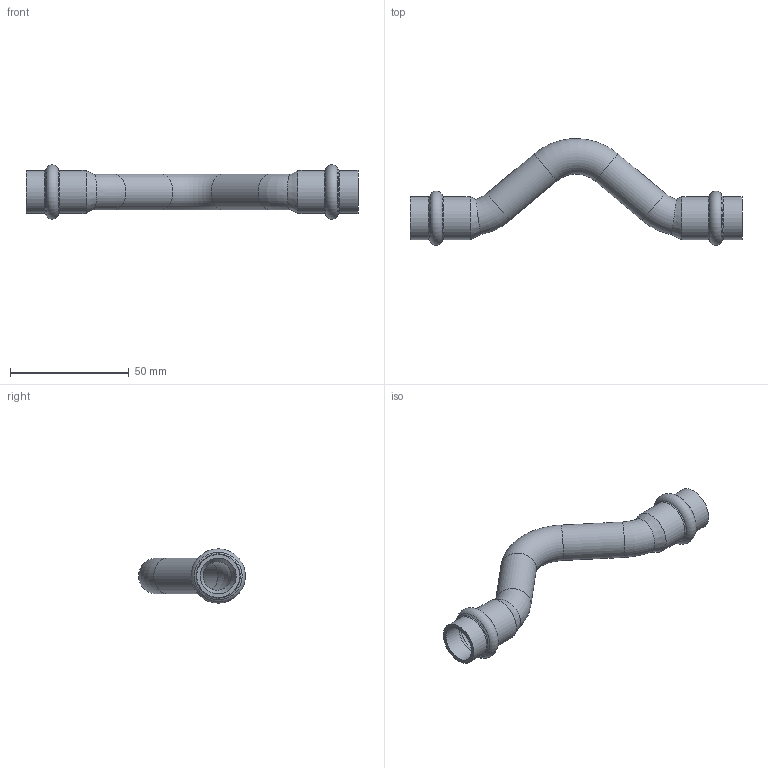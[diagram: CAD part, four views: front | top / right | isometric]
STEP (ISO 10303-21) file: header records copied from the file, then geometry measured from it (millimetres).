
FILE_DESCRIPTION((''),'2;1');
FILE_NAME('G:\Nirosan-Schmiedefeld\Technics\CAD\Bauteile VA\015\6908515(3).stp','2011-10-26T11:55:44',('herberg'),(''),'Autodesk Inventor 2009','Autodesk Inventor 2009','');
FILE_SCHEMA(('AUTOMOTIVE_DESIGN { 1 0 10303 214 1 1 1 1 }'));
Length unit declared in the file: millimetre
Products named in the file (1): 6908515(3)
Bounding box: 140 x 45 x 22.9 mm (x, y, z)
Volume: 11341.6 mm3; surface area: 15278.5 mm2
Topology: 1 solids, 1 shells, 40 faces, 88 edges, 50 vertices
Faces by surface type: cylinder 12, torus 10, bspline 8, cone 8, plane 2
Full cylindrical faces by diameter (mm): 12 x2, 15 x2, 15.15 x4, 18.15 x4
Entity records: 1282 total; most frequent: CARTESIAN_POINT 613, DIRECTION 138, ORIENTED_EDGE 80, EDGE_LOOP 80, AXIS2_PLACEMENT_3D 69, VERTEX_POINT 40, EDGE_CURVE 40, FACE_OUTER_BOUND 40
